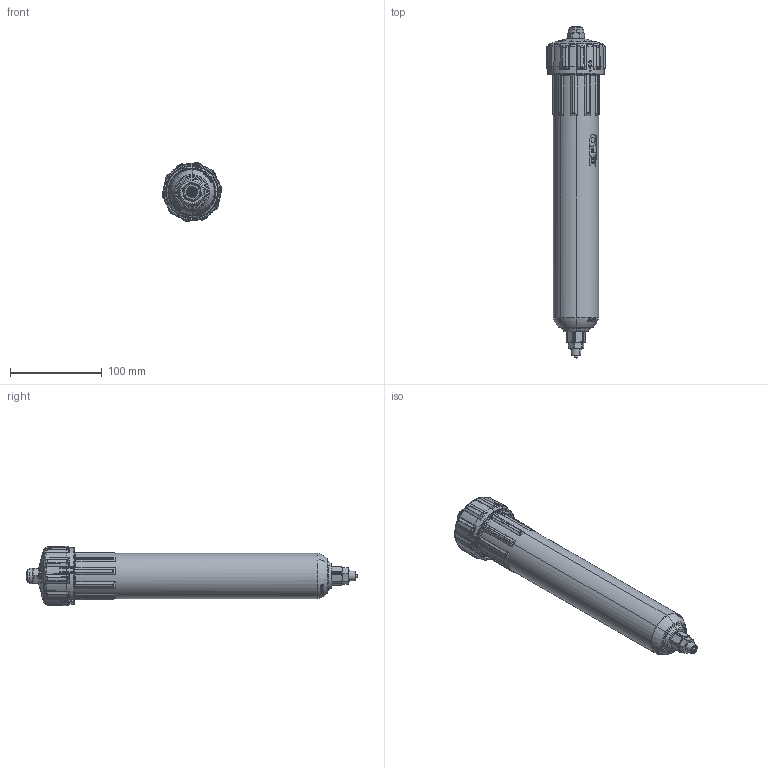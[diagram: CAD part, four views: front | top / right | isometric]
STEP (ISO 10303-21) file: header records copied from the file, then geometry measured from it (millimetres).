
FILE_DESCRIPTION (( 'STEP AP214' ), '1' );
FILE_NAME ('NORDSONEFD-7012436 RETAINER SYS O 12OZ CL BL.STEP', '2019-08-25T14:35:54', ( '' ), ( '' ), 'SwSTEP 2.0', 'SolidWorks 2019', '' );
FILE_SCHEMA (( 'AUTOMOTIVE_DESIGN' ));
Length unit declared in the file: inch
Products named in the file (1): NORDSONEFD-7012436 RETAINER SYS O 12OZ CL BL
Bounding box: 65.47 x 362.62 x 64.84 mm (x, y, z)
Volume: 254997.5 mm3; surface area: 204499.8 mm2
Topology: 5 solids, 5 shells, 3375 faces, 8548 edges, 5201 vertices
Faces by surface type: bspline 1348, plane 944, torus 401, cylinder 351, cone 235, sphere 96
Entity records: 147538 total; most frequent: CARTESIAN_POINT 77745, ORIENTED_EDGE 16852, DIRECTION 10635, EDGE_CURVE 8426, VERTEX_POINT 5201, AXIS2_PLACEMENT_3D 4247, B_SPLINE_CURVE_WITH_KNOTS 3731, EDGE_LOOP 3523
